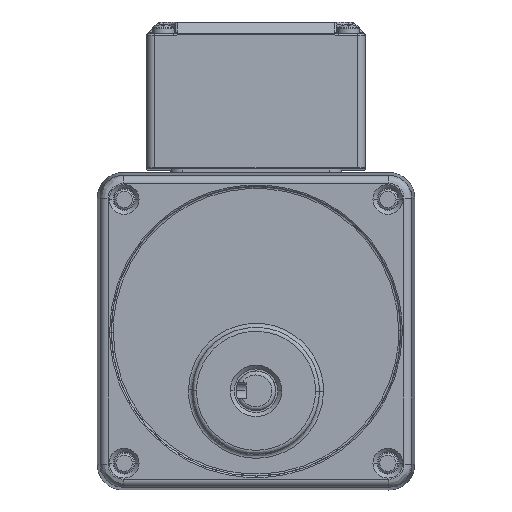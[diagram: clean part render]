
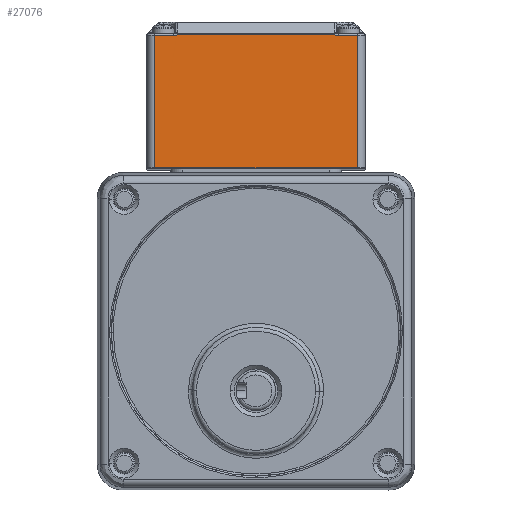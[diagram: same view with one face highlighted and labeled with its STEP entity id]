
A CAD part, front view. The second image highlights one B-rep face of the part: STEP entity #27076.
In plain terms, the highlighted planar face has unit normal (0, -1, 0.008).
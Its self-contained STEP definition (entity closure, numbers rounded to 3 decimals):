
#329 = CARTESIAN_POINT ( 'NONE',  ( 0., -4.163, 40.981 ) ) ;
#1137 = CARTESIAN_POINT ( 'NONE',  ( 19.835, -3.885, 74.773 ) ) ;
#1144 = DIRECTION ( 'NONE',  ( 1., 0., 0. ) ) ;
#2122 = CARTESIAN_POINT ( 'NONE',  ( -20.701, -3.888, 74.48 ) ) ;
#2500 = VERTEX_POINT ( 'NONE', #11550 ) ;
#2768 = LINE ( 'NONE', #16656, #29193 ) ;
#3425 = VECTOR ( 'NONE', #1144, 1000. ) ;
#3432 = DIRECTION ( 'NONE',  ( 0., -0.008, -1. ) ) ;
#3577 = VERTEX_POINT ( 'NONE', #42289 ) ;
#3904 = CARTESIAN_POINT ( 'NONE',  ( 20.521, -3.888, 74.492 ) ) ;
#4258 = B_SPLINE_CURVE_WITH_KNOTS ( 'NONE', 3,
 ( #2122, #40147, #5115, #44007, #6039, #12169, #19663, #22400, #29662, #8997 ),
 .UNSPECIFIED., .F., .F.,
 ( 4, 2, 2, 2, 4 ),
 ( 0., 0.25, 0.5, 0.75, 1. ),
 .UNSPECIFIED. ) ;
#4299 = ORIENTED_EDGE ( 'NONE', *, *, #8620, .F. ) ;
#5115 = CARTESIAN_POINT ( 'NONE',  ( -20.543, -3.887, 74.488 ) ) ;
#5913 = EDGE_CURVE ( 'NONE', #2500, #16775, #16128, .T. ) ;
#6039 = CARTESIAN_POINT ( 'NONE',  ( -20.319, -3.886, 74.538 ) ) ;
#7339 = CARTESIAN_POINT ( 'NONE',  ( 19.847, -3.886, 74.769 ) ) ;
#7643 = PLANE ( 'NONE',  #27753 ) ;
#8007 = CARTESIAN_POINT ( 'NONE',  ( 20.091, -3.887, 74.636 ) ) ;
#8620 = EDGE_CURVE ( 'NONE', #42693, #14734, #4258, .T. ) ;
#8997 = CARTESIAN_POINT ( 'NONE',  ( -19.835, -3.885, 74.773 ) ) ;
#9634 = VERTEX_POINT ( 'NONE', #23130 ) ;
#9859 = DIRECTION ( 'NONE',  ( -1., 0., 0. ) ) ;
#10946 = ORIENTED_EDGE ( 'NONE', *, *, #5913, .T. ) ;
#11050 = CARTESIAN_POINT ( 'NONE',  ( -20.701, -3.888, 74.48 ) ) ;
#11176 = CARTESIAN_POINT ( 'NONE',  ( 19.835, -3.885, 74.773 ) ) ;
#11550 = CARTESIAN_POINT ( 'NONE',  ( -25.5, -3.888, 74.48 ) ) ;
#11698 = EDGE_CURVE ( 'NONE', #3577, #16775, #2768, .T. ) ;
#11831 = EDGE_CURVE ( 'NONE', #29321, #36194, #20779, .T. ) ;
#11959 = VECTOR ( 'NONE', #37720, 1000. ) ;
#12169 = CARTESIAN_POINT ( 'NONE',  ( -20.176, -3.886, 74.593 ) ) ;
#12785 = CARTESIAN_POINT ( 'NONE',  ( -25.5, -3.888, 74.48 ) ) ;
#13846 = EDGE_CURVE ( 'NONE', #36194, #9634, #19451, .T. ) ;
#14225 = DIRECTION ( 'NONE',  ( 0., -1., 0.008 ) ) ;
#14585 = EDGE_CURVE ( 'NONE', #14734, #29321, #39617, .T. ) ;
#14592 = CARTESIAN_POINT ( 'NONE',  ( 19.835, -3.885, 74.773 ) ) ;
#14709 = ORIENTED_EDGE ( 'NONE', *, *, #14585, .F. ) ;
#14734 = VERTEX_POINT ( 'NONE', #30196 ) ;
#15041 = CARTESIAN_POINT ( 'NONE',  ( 20.141, -3.887, 74.611 ) ) ;
#15044 = CARTESIAN_POINT ( 'NONE',  ( -19.835, -3.885, 74.773 ) ) ;
#16128 = LINE ( 'NONE', #43886, #11959 ) ;
#16656 = CARTESIAN_POINT ( 'NONE',  ( 25.5, -4.161, 41.181 ) ) ;
#16775 = VERTEX_POINT ( 'NONE', #18246 ) ;
#17788 = CARTESIAN_POINT ( 'NONE',  ( 20.614, -3.888, 74.482 ) ) ;
#17865 = FACE_OUTER_BOUND ( 'NONE', #30023, .T. ) ;
#18222 = CARTESIAN_POINT ( 'NONE',  ( 19.859, -3.886, 74.764 ) ) ;
#18246 = CARTESIAN_POINT ( 'NONE',  ( -25.5, -4.161, 41.181 ) ) ;
#18452 = CARTESIAN_POINT ( 'NONE',  ( 19.918, -3.886, 74.733 ) ) ;
#19451 = LINE ( 'NONE', #29676, #25865 ) ;
#19663 = CARTESIAN_POINT ( 'NONE',  ( -20.107, -3.885, 74.626 ) ) ;
#20288 = ORIENTED_EDGE ( 'NONE', *, *, #11698, .F. ) ;
#20521 = LINE ( 'NONE', #35271, #41246 ) ;
#20779 =( BOUNDED_CURVE ( )  B_SPLINE_CURVE ( 3, ( #14592, #25721, #1137, #11176, #25033, #7339, #18222, #42561, #32089, #18452, #28674, #39149, #21190, #25254, #8007, #15041, #35068, #21863, #39390, #32309, #3904, #17788, #28903, #31627 ),
 .UNSPECIFIED., .F., .F. ) 
 B_SPLINE_CURVE_WITH_KNOTS ( ( 4, 1, 1, 1, 1, 1, 1, 1, 1, 1, 1, 1, 1, 1, 1, 1, 1, 1, 1, 1, 1, 4 ),
 ( 0., 0.006, 0.036, 0.064, 0.092, 0.12, 0.148, 0.177, 0.208, 0.242, 0.279, 0.32, 0.364, 0.412, 0.465, 0.524, 0.59, 0.663, 0.745, 0.834, 0.932, 1. ),
 .UNSPECIFIED. ) 
 CURVE ( )  GEOMETRIC_REPRESENTATION_ITEM ( )  RATIONAL_B_SPLINE_CURVE ( ( 1.172, 1.172, 1.172, 1.172, 1.172, 1.172, 1.172, 1.172, 1.172, 1.172, 1.172, 1.172, 1.172, 1.172, 1.172, 1.172, 1.172, 1.172, 1.172, 1.172, 1.172, 1.172, 1.172, 1.172 ) ) 
 REPRESENTATION_ITEM ( '' )  );
#21190 = CARTESIAN_POINT ( 'NONE',  ( 20.008, -3.886, 74.68 ) ) ;
#21863 = CARTESIAN_POINT ( 'NONE',  ( 20.264, -3.887, 74.559 ) ) ;
#22400 = CARTESIAN_POINT ( 'NONE',  ( -19.971, -3.885, 74.7 ) ) ;
#23130 = CARTESIAN_POINT ( 'NONE',  ( 25.5, -3.888, 74.48 ) ) ;
#23588 = ORIENTED_EDGE ( 'NONE', *, *, #11831, .F. ) ;
#25033 = CARTESIAN_POINT ( 'NONE',  ( 19.839, -3.886, 74.772 ) ) ;
#25254 = CARTESIAN_POINT ( 'NONE',  ( 20.047, -3.886, 74.659 ) ) ;
#25327 = DIRECTION ( 'NONE',  ( -1., 0., 0. ) ) ;
#25721 = CARTESIAN_POINT ( 'NONE',  ( 19.835, -3.885, 74.773 ) ) ;
#25865 = VECTOR ( 'NONE', #26503, 1000. ) ;
#26503 = DIRECTION ( 'NONE',  ( 1., 0., 0. ) ) ;
#27076 = ADVANCED_FACE ( 'NONE', ( #17865 ), #7643, .T. ) ;
#27753 = AXIS2_PLACEMENT_3D ( 'NONE', #329, #14225, #25327 ) ;
#28674 = CARTESIAN_POINT ( 'NONE',  ( 19.944, -3.886, 74.717 ) ) ;
#28903 = CARTESIAN_POINT ( 'NONE',  ( 20.675, -3.888, 74.48 ) ) ;
#29161 = DIRECTION ( 'NONE',  ( 1., 0., 0. ) ) ;
#29193 = VECTOR ( 'NONE', #9859, 1000. ) ;
#29321 = VERTEX_POINT ( 'NONE', #35774 ) ;
#29537 = ORIENTED_EDGE ( 'NONE', *, *, #31038, .F. ) ;
#29662 = CARTESIAN_POINT ( 'NONE',  ( -19.905, -3.884, 74.743 ) ) ;
#29676 = CARTESIAN_POINT ( 'NONE',  ( 20.701, -3.888, 74.48 ) ) ;
#30023 = EDGE_LOOP ( 'NONE', ( #10946, #20288, #29537, #35637, #23588, #14709, #4299, #33143 ) ) ;
#30196 = CARTESIAN_POINT ( 'NONE',  ( -19.835, -3.885, 74.773 ) ) ;
#31038 = EDGE_CURVE ( 'NONE', #9634, #3577, #20521, .T. ) ;
#31627 = CARTESIAN_POINT ( 'NONE',  ( 20.701, -3.888, 74.48 ) ) ;
#32089 = CARTESIAN_POINT ( 'NONE',  ( 19.895, -3.886, 74.746 ) ) ;
#32309 = CARTESIAN_POINT ( 'NONE',  ( 20.424, -3.888, 74.511 ) ) ;
#33143 = ORIENTED_EDGE ( 'NONE', *, *, #42001, .F. ) ;
#35068 = CARTESIAN_POINT ( 'NONE',  ( 20.198, -3.887, 74.585 ) ) ;
#35271 = CARTESIAN_POINT ( 'NONE',  ( 25.5, -3.888, 74.48 ) ) ;
#35637 = ORIENTED_EDGE ( 'NONE', *, *, #13846, .F. ) ;
#35774 = CARTESIAN_POINT ( 'NONE',  ( 19.835, -3.885, 74.773 ) ) ;
#36194 = VERTEX_POINT ( 'NONE', #41227 ) ;
#37720 = DIRECTION ( 'NONE',  ( 0., -0.008, -1. ) ) ;
#39149 = CARTESIAN_POINT ( 'NONE',  ( 19.974, -3.886, 74.7 ) ) ;
#39330 = VECTOR ( 'NONE', #29161, 1000. ) ;
#39390 = CARTESIAN_POINT ( 'NONE',  ( 20.339, -3.887, 74.534 ) ) ;
#39617 = LINE ( 'NONE', #15044, #3425 ) ;
#40147 = CARTESIAN_POINT ( 'NONE',  ( -20.622, -3.887, 74.483 ) ) ;
#41227 = CARTESIAN_POINT ( 'NONE',  ( 20.701, -3.888, 74.48 ) ) ;
#41246 = VECTOR ( 'NONE', #3432, 1000. ) ;
#42001 = EDGE_CURVE ( 'NONE', #2500, #42693, #43269, .T. ) ;
#42289 = CARTESIAN_POINT ( 'NONE',  ( 25.5, -4.161, 41.181 ) ) ;
#42561 = CARTESIAN_POINT ( 'NONE',  ( 19.875, -3.886, 74.756 ) ) ;
#42693 = VERTEX_POINT ( 'NONE', #11050 ) ;
#43269 = LINE ( 'NONE', #12785, #39330 ) ;
#43886 = CARTESIAN_POINT ( 'NONE',  ( -25.5, -3.888, 74.48 ) ) ;
#44007 = CARTESIAN_POINT ( 'NONE',  ( -20.392, -3.886, 74.516 ) ) ;
